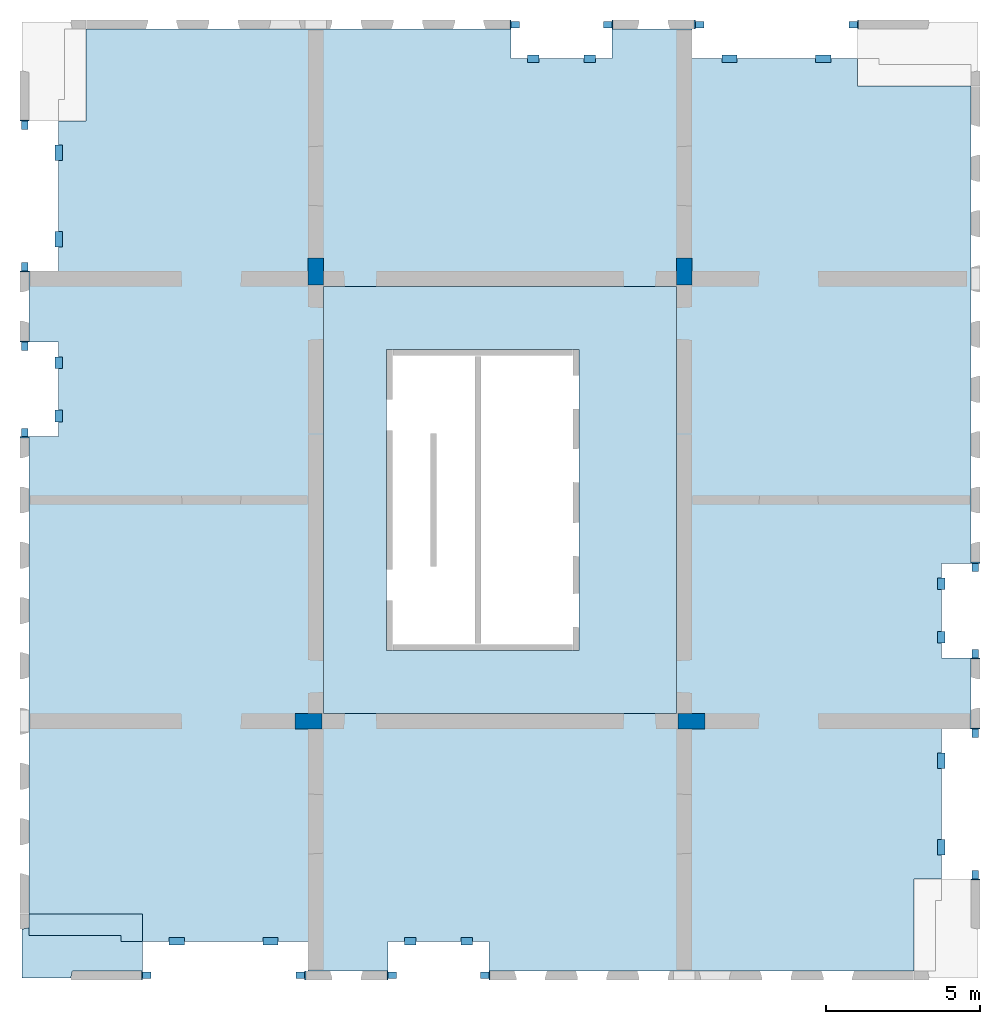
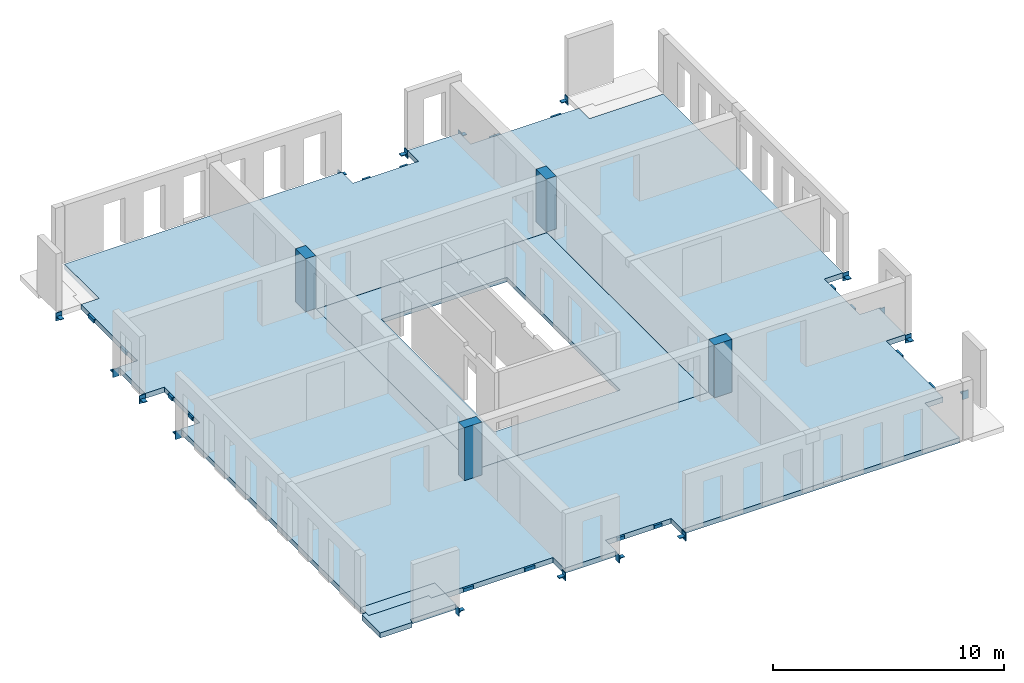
# One storey, part 1 of 4: 32 beams, 4 columns, 4 slabs, 2 openings.
"""IFC2X3 building model written with IfcOpenShell, lengths in millimetres."""

from ifc_helpers import new_model, entity, si_unit, converted_unit, derived_unit, direction, frame, frame_2d, origin, origin_2d_with_axis, place, context, subcontext, project, spatial, polyline, rectangle, outline, extrude, source, transform, mapped, material, layer, layer_set, layer_usage, type_object, type_shapes, element, save


model = new_model("IFC2X3")

# Units and contexts
model_context = context("Model", 3, precision=0.01, world=origin(), true_north=direction((6.12303176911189e-17, 1.0)))
body_context = subcontext(model_context, "Body", "Model", "MODEL_VIEW")
ifc_project = project(units=[si_unit("LENGTHUNIT", "METRE", prefix="MILLI"), si_unit("AREAUNIT", "SQUARE_METRE"), si_unit("VOLUMEUNIT", "CUBIC_METRE"), converted_unit("PLANEANGLEUNIT", "DEGREE", entity("IfcRatioMeasure", 0.0174532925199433), si_unit("PLANEANGLEUNIT", "RADIAN"), dimensions=[0, 0, 0, 0, 0, 0, 0]), si_unit("MASSUNIT", "GRAM", prefix="KILO"), derived_unit("MASSDENSITYUNIT", [(si_unit("MASSUNIT", "GRAM", prefix="KILO"), 1), (si_unit("LENGTHUNIT", "METRE"), -3)]), si_unit("TIMEUNIT", "SECOND"), si_unit("FREQUENCYUNIT", "HERTZ"), si_unit("THERMODYNAMICTEMPERATUREUNIT", "DEGREE_CELSIUS"), derived_unit("THERMALTRANSMITTANCEUNIT", [(si_unit("MASSUNIT", "GRAM", prefix="KILO"), 1), (si_unit("THERMODYNAMICTEMPERATUREUNIT", "KELVIN"), -1), (si_unit("TIMEUNIT", "SECOND"), -3)]), derived_unit("VOLUMETRICFLOWRATEUNIT", [(si_unit("LENGTHUNIT", "METRE"), 3), (si_unit("TIMEUNIT", "SECOND"), -1)]), si_unit("ELECTRICCURRENTUNIT", "AMPERE"), si_unit("ELECTRICVOLTAGEUNIT", "VOLT"), si_unit("POWERUNIT", "WATT"), si_unit("FORCEUNIT", "NEWTON", prefix="KILO"), si_unit("ILLUMINANCEUNIT", "LUX"), si_unit("LUMINOUSFLUXUNIT", "LUMEN"), si_unit("LUMINOUSINTENSITYUNIT", "CANDELA"), derived_unit("USERDEFINED", [(si_unit("MASSUNIT", "GRAM", prefix="KILO"), -1), (si_unit("LENGTHUNIT", "METRE"), -2), (si_unit("TIMEUNIT", "SECOND"), 3), (si_unit("LUMINOUSFLUXUNIT", "LUMEN"), 1)]), derived_unit("LINEARVELOCITYUNIT", [(si_unit("LENGTHUNIT", "METRE"), 1), (si_unit("TIMEUNIT", "SECOND"), -1)]), si_unit("PRESSUREUNIT", "PASCAL"), derived_unit("USERDEFINED", [(si_unit("LENGTHUNIT", "METRE"), -2), (si_unit("MASSUNIT", "GRAM", prefix="KILO"), 1), (si_unit("TIMEUNIT", "SECOND"), -2)])], contexts=[model_context])

# Site, building, storey
site_placement = place(None, origin())
site = spatial("IfcSite", under=ifc_project, at=site_placement, Name="Default", CompositionType="ELEMENT")
building_placement = place(site_placement, origin())
building = spatial("IfcBuilding", under=site, at=building_placement, Name="niet gebruiken", CompositionType="ELEMENT")
storey_placement = place(building_placement, frame((0.0, 0.0, 63900.0)))
storey = spatial("IfcBuildingStorey", under=building, at=storey_placement, Name="20 twintigste verdieping", CompositionType="ELEMENT", Elevation=63900.0000000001)

# Columns
ifc_material_1 = material(Name="NLRS_f2_beton ihwg")
column_type_1 = type_object("IfcColumnType", Name="500x880", PredefinedType="COLUMN", material=ifc_material_1)
shared_shape_1 = source(origin(), body_context, "Body", "SweptSolid", [
    extrude(rectangle(XDim=879.999999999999, YDim=500.000000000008, at=origin_2d_with_axis()), frame((135750.003540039, 24940.0, 63810.0), z_axis=(0.0, 0.0, 1.0), x_axis=(0.0, -1.0, 0.0)), (0.0, 0.0, 1.0), 2790.00000000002),
])
type_shapes(column_type_1, [shared_shape_1])
column_1_placement = place(storey_placement, frame((0.0, 0.0, -63900.0)))
element("IfcColumn", 1, at=column_1_placement, inside=storey, type_object=column_type_1, material=ifc_material_1, Name="NLRS_28.11_SCO_TLB_beton kolom ihwg_gen:500x880", ObjectType="500x880", context=body_context, shape_type="MappedRepresentation", body=[
    mapped(shared_shape_1, transform((0.0, 0.0, 0.0), scale=1.0)),
])
column_type_2 = type_object("IfcColumnType", Name="500x880", PredefinedType="COLUMN", material=ifc_material_1)
shared_shape_2 = source(origin(), body_context, "Body", "SweptSolid", [
    extrude(rectangle(XDim=879.999999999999, YDim=500.000000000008, at=origin_2d_with_axis()), frame((147750.0, 24940.0, 63810.0), z_axis=(0.0, 0.0, 1.0), x_axis=(0.0, -1.0, 0.0)), (0.0, 0.0, 1.0), 2790.00000000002),
])
type_shapes(column_type_2, [shared_shape_2])
column_2_placement = place(storey_placement, frame((0.0, 0.0, -63900.0)))
element("IfcColumn", 2, at=column_2_placement, inside=storey, type_object=column_type_2, material=ifc_material_1, Name="NLRS_28.11_SCO_TLB_beton kolom ihwg_gen:500x880", ObjectType="500x880", context=body_context, shape_type="MappedRepresentation", body=[
    mapped(shared_shape_2, transform((0.0, 0.0, 0.0), scale=1.0)),
])
column_type_3 = type_object("IfcColumnType", Name="500x880", PredefinedType="COLUMN", material=ifc_material_1)
shared_shape_3 = source(origin(), body_context, "Body", "SweptSolid", [
    extrude(rectangle(XDim=500.000000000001, YDim=880.000000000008, at=origin_2d_with_axis()), frame((135510.003540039, 10300.0115507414, 63810.0), z_axis=(0.0, 0.0, 1.0), x_axis=(0.0, -1.0, 0.0)), (0.0, 0.0, 1.0), 2790.00000000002),
])
type_shapes(column_type_3, [shared_shape_3])
column_3_placement = place(storey_placement, frame((0.0, 0.0, -63900.0)))
element("IfcColumn", 3, at=column_3_placement, inside=storey, type_object=column_type_3, material=ifc_material_1, Name="NLRS_28.11_SCO_TLB_beton kolom ihwg_gen:500x880", ObjectType="500x880", context=body_context, shape_type="MappedRepresentation", body=[
    mapped(shared_shape_3, transform((0.0, 0.0, 0.0), scale=1.0)),
])
column_type_4 = type_object("IfcColumnType", Name="500x880", PredefinedType="COLUMN", material=ifc_material_1)
shared_shape_4 = source(origin(), body_context, "Body", "SweptSolid", [
    extrude(rectangle(XDim=500.000000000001, YDim=880.000000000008, at=origin_2d_with_axis()), frame((147990.0, 10300.0, 63810.0), z_axis=(0.0, 0.0, 1.0), x_axis=(0.0, -1.0, 0.0)), (0.0, 0.0, 1.0), 2790.00000000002),
])
type_shapes(column_type_4, [shared_shape_4])
column_4_placement = place(storey_placement, frame((0.0, 0.0, -63900.0)))
element("IfcColumn", 4, at=column_4_placement, inside=storey, type_object=column_type_4, material=ifc_material_1, Name="NLRS_28.11_SCO_TLB_beton kolom ihwg_gen:500x880", ObjectType="500x880", context=body_context, shape_type="MappedRepresentation", body=[
    mapped(shared_shape_4, transform((0.0, 0.0, 0.0), scale=1.0)),
])

# Beams
ifc_material_2 = material(Name="NLRS_h2_staal")
beam_type_1 = type_object("IfcBeamType", Name="NLRS_28.11_SF_WPB_stalen schoen 4_gen", PredefinedType="BEAM", material=ifc_material_2)
shared_shape_5 = source(origin(), body_context, "Body", "SweptSolid", [
    extrude(outline(polyline([(-69.4999999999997, -23.0), (8.49999999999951, -23.0), (30.5, -1.0), (30.5000000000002, 47.0), (-69.4999999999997, -23.0)])), frame((-105.0, -109.499999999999, -58.0), z_axis=(1.0, 0.0, 0.0), x_axis=(0.0, -1.0, 0.0)), (0.0, 0.0, 1.0), 35.0),
    extrude(outline(polyline([(-69.4999999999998, -23.0), (8.49999999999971, -23.0), (30.5, -1.0), (30.5000000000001, 47.0), (-69.4999999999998, -23.0)])), frame((70.0, -109.499999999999, -58.0), z_axis=(1.0, 0.0, 0.0), x_axis=(0.0, -1.0, 0.0)), (0.0, 0.0, 1.0), 35.0),
    extrude(rectangle(XDim=300.0, YDim=34.9999999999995, at=origin_2d_with_axis()), frame((0.0, -157.5, -230.0), z_axis=(0.0, 0.0, 1.0), x_axis=(-1.0, 0.0, 0.0)), (0.0, 0.0, 1.0), 420.0),
    extrude(rectangle(XDim=210.000000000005, YDim=274.999999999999, at=origin_2d_with_axis()), frame((0.0, -2.4999999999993, -35.0), z_axis=(0.0, 0.0, 1.0), x_axis=(-1.0, 0.0, 0.0)), (0.0, 0.0, 1.0), 35.0),
])
type_shapes(beam_type_1, [shared_shape_5])
beam_1_placement = place(storey_placement, frame((157230.125015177, 12500.2361127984, -310.0)))
element("IfcBeam", 5, at=beam_1_placement, inside=storey, type_object=beam_type_1, material=ifc_material_2, Name="NLRS_28.11_SF_WPB_stalen schoen 4_gen:NLRS_28.11_SF_WPB_stalen schoen 4_gen", ObjectType="NLRS_28.11_SF_WPB_stalen schoen 4_gen", context=body_context, shape_type="MappedRepresentation", body=[
    mapped(shared_shape_5, transform((0.0, 0.0, 0.0), scale=1.0)),
])
for number, where, z_axis, x_axis, name in (
    (6, (126270.125015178, 22500.2361127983, -310.0), (0.0, 0.0, 1.0), (-1.0, 0.0, 0.0), "NLRS_28.11_SF_WPB_stalen schoen 4_gen:NLRS_28.11_SF_WPB_stalen schoen 4_gen"),
    (7, (157230.125015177, 15300.2361127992, -310.0), (0.0, 0.0, 1.0), (-1.0, 0.0, 0.0), "NLRS_28.11_SF_WPB_stalen schoen 4_gen:NLRS_28.11_SF_WPB_stalen schoen 4_gen"),
):
    element("IfcBeam", number, at=place(storey_placement, frame(where, z_axis=z_axis, x_axis=x_axis)), inside=storey, type_object=beam_type_1, material=ifc_material_2, Name=name, ObjectType="NLRS_28.11_SF_WPB_stalen schoen 4_gen", context=body_context, shape_type="MappedRepresentation", body=[
        mapped(shared_shape_5, transform((0.0, 0.0, 0.0), scale=1.0)),
    ])
beam_2_placement = place(storey_placement, frame((126270.125015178, 19700.2361127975, -310.0)))
element("IfcBeam", 8, at=beam_2_placement, inside=storey, type_object=beam_type_1, material=ifc_material_2, Name="NLRS_28.11_SF_WPB_stalen schoen 4_gen:NLRS_28.11_SF_WPB_stalen schoen 4_gen", ObjectType="NLRS_28.11_SF_WPB_stalen schoen 4_gen", context=body_context, shape_type="MappedRepresentation", body=[
    mapped(shared_shape_5, transform((0.0, 0.0, 0.0), scale=1.0)),
])
for number, where, z_axis, x_axis, name in (
    (9, (138250.125015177, 2020.23611279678, -310.0), (0.0, 0.0, 1.0), (0.0, -1.0, 0.0), "NLRS_28.11_SF_WPB_stalen schoen 4_gen:NLRS_28.11_SF_WPB_stalen schoen 4_gen"),
    (10, (141250.125015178, 2020.23611279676, -310.0), (0.0, 0.0, 1.0), (0.0, 1.0, 0.0), "NLRS_28.11_SF_WPB_stalen schoen 4_gen:NLRS_28.11_SF_WPB_stalen schoen 4_gen"),
    (11, (145250.125015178, 32980.2361127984, -310.0), (0.0, 0.0, 1.0), (0.0, 1.0, 0.0), "NLRS_28.11_SF_WPB_stalen schoen 4_gen:NLRS_28.11_SF_WPB_stalen schoen 4_gen"),
    (12, (142250.125015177, 32980.2361127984, -310.0), (0.0, 0.0, 1.0), (0.0, -1.0, 0.0), "NLRS_28.11_SF_WPB_stalen schoen 4_gen:NLRS_28.11_SF_WPB_stalen schoen 4_gen"),
):
    element("IfcBeam", number, at=place(storey_placement, frame(where, z_axis=z_axis, x_axis=x_axis)), inside=storey, type_object=beam_type_1, material=ifc_material_2, Name=name, ObjectType="NLRS_28.11_SF_WPB_stalen schoen 4_gen", context=body_context, shape_type="MappedRepresentation", body=[
        mapped(shared_shape_5, transform((0.0, 0.0, 0.0), scale=1.0)),
    ])
beam_type_2 = type_object("IfcBeamType", Name="NLRS_28.11_SF_WPB_stalen schoen 3_gen", PredefinedType="BEAM", material=ifc_material_2)
shared_shape_6 = source(origin(), body_context, "Body", "SweptSolid", [
    extrude(outline(polyline([(-69.4999999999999, -23.0), (8.49999999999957, -23.0), (30.5000000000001, -1.0), (30.5000000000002, 47.0), (-69.4999999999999, -23.0)])), frame((-105.0, -109.499999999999, -63.0), z_axis=(1.0, 0.0, 0.0), x_axis=(0.0, -1.0, 0.0)), (0.0, 0.0, 1.0), 40.0),
    extrude(outline(polyline([(-69.4999999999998, -23.0), (8.49999999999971, -23.0), (30.5, -1.0), (30.5000000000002, 47.0), (-69.4999999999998, -23.0)])), frame((65.0, -109.499999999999, -63.0), z_axis=(1.0, 0.0, 0.0), x_axis=(0.0, -1.0, 0.0)), (0.0, 0.0, 1.0), 40.0),
    extrude(rectangle(XDim=300.0, YDim=39.9999999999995, at=origin_2d_with_axis()), frame((0.0, -160.0, -230.0), z_axis=(0.0, 0.0, 1.0), x_axis=(-1.0, 0.0, 0.0)), (0.0, 0.0, 1.0), 420.0),
    extrude(rectangle(XDim=210.000000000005, YDim=274.999999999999, at=origin_2d_with_axis()), frame((0.0, -2.49999999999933, -40.0), z_axis=(0.0, 0.0, 1.0), x_axis=(-1.0, 0.0, 0.0)), (0.0, 0.0, 1.0), 39.9999999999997),
])
type_shapes(beam_type_2, [shared_shape_6])
beam_3_placement = place(storey_placement, frame((157230.125015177, 9900.23611279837, -310.0), z_axis=(0.0, 0.0, 1.0), x_axis=(-1.0, 0.0, 0.0)))
element("IfcBeam", 13, at=beam_3_placement, inside=storey, type_object=beam_type_2, material=ifc_material_2, Name="NLRS_28.11_SF_WPB_stalen schoen 3_gen:NLRS_28.11_SF_WPB_stalen schoen 3_gen", ObjectType="NLRS_28.11_SF_WPB_stalen schoen 3_gen", context=body_context, shape_type="MappedRepresentation", body=[
    mapped(shared_shape_6, transform((0.0, 0.0, 0.0), scale=1.0)),
])
for number, where, name in (
    (14, (157230.125015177, 5300.23611279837, -310.0), "NLRS_28.11_SF_WPB_stalen schoen 3_gen:NLRS_28.11_SF_WPB_stalen schoen 3_gen"),
    (15, (126270.125015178, 25100.2361127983, -310.0), "NLRS_28.11_SF_WPB_stalen schoen 3_gen:NLRS_28.11_SF_WPB_stalen schoen 3_gen"),
):
    element("IfcBeam", number, at=place(storey_placement, frame(where)), inside=storey, type_object=beam_type_2, material=ifc_material_2, Name=name, ObjectType="NLRS_28.11_SF_WPB_stalen schoen 3_gen", context=body_context, shape_type="MappedRepresentation", body=[
        mapped(shared_shape_6, transform((0.0, 0.0, 0.0), scale=1.0)),
    ])
for number, where, z_axis, x_axis, name in (
    (16, (126270.125015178, 29700.2361127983, -310.0), (0.0, 0.0, 1.0), (-1.0, 0.0, 0.0), "NLRS_28.11_SF_WPB_stalen schoen 3_gen:NLRS_28.11_SF_WPB_stalen schoen 3_gen"),
    (17, (135250.125015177, 2020.23611279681, -310.0), (0.0, 0.0, 1.0), (0.0, 1.0, 0.0), "NLRS_28.11_SF_WPB_stalen schoen 3_gen:NLRS_28.11_SF_WPB_stalen schoen 3_gen"),
    (18, (130250.125015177, 2020.23611279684, -310.0), (0.0, 0.0, 1.0), (0.0, -1.0, 0.0), "NLRS_28.11_SF_WPB_stalen schoen 3_gen:NLRS_28.11_SF_WPB_stalen schoen 3_gen"),
    (19, (148250.125015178, 32980.2361127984, -310.0), (0.0, 0.0, 1.0), (0.0, -1.0, 0.0), "NLRS_28.11_SF_WPB_stalen schoen 3_gen:NLRS_28.11_SF_WPB_stalen schoen 3_gen"),
    (20, (153250.125015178, 32980.2361127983, -310.0), (0.0, 0.0, 1.0), (0.0, 1.0, 0.0), "NLRS_28.11_SF_WPB_stalen schoen 3_gen:NLRS_28.11_SF_WPB_stalen schoen 3_gen"),
):
    element("IfcBeam", number, at=place(storey_placement, frame(where, z_axis=z_axis, x_axis=x_axis)), inside=storey, type_object=beam_type_2, material=ifc_material_2, Name=name, ObjectType="NLRS_28.11_SF_WPB_stalen schoen 3_gen", context=body_context, shape_type="MappedRepresentation", body=[
        mapped(shared_shape_6, transform((0.0, 0.0, 0.0), scale=1.0)),
    ])
beam_type_3 = type_object("IfcBeamType", Name="NLRS_28.11_SF_WPB_stalen handje 7 lang 375_gen:NLRS_28.11_SF_WPB_stalen handje 7_gen", PredefinedType="BEAM")
beam_4_placement = place(storey_placement, frame((127265.0, 25744.9872481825, -93.0), z_axis=(0.0, 0.0, 1.0), x_axis=(0.0, 1.0, 0.0)))
element("IfcBeam", 21, at=beam_4_placement, inside=storey, type_object=beam_type_3, material=ifc_material_2, Name="NLRS_28.11_SF_WPB_stalen handje 7 lang 375_gen:NLRS_28.11_SF_WPB_stalen handje 7_gen", ObjectType="NLRS_28.11_SF_WPB_stalen handje 7 lang 375_gen:NLRS_28.11_SF_WPB_stalen handje 7_gen", context=body_context, shape_type="SweptSolid", body=[
    extrude(outline(polyline([(-70.6666666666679, -153.333333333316), (-40.6666666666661, -153.333333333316), (-40.6666666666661, 61.66666666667), (111.333333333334, 61.66666666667), (111.333333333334, 91.6666666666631), (-70.6666666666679, 91.6666666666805), (-70.6666666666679, -153.333333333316)])), frame((0.0, -91.6666666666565, -70.6666666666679), z_axis=(1.0, 0.0, 0.0), x_axis=(0.0, 0.0, -1.0)), (0.0, 0.0, 1.0), 500.0),
])
beam_5_placement = place(storey_placement, frame((127265.0, 28554.9902884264, -93.0), z_axis=(0.0, 0.0, 1.0), x_axis=(0.0, 1.0, 0.0)))
element("IfcBeam", 22, at=beam_5_placement, inside=storey, type_object=beam_type_3, material=ifc_material_2, Name="NLRS_28.11_SF_WPB_stalen handje 7 lang 375_gen:NLRS_28.11_SF_WPB_stalen handje 7_gen", ObjectType="NLRS_28.11_SF_WPB_stalen handje 7 lang 375_gen:NLRS_28.11_SF_WPB_stalen handje 7_gen", context=body_context, shape_type="SweptSolid", body=[
    extrude(outline(polyline([(-70.6666666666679, -153.333333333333), (-40.6666666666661, -153.333333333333), (-40.6666666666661, 61.6666666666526), (111.333333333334, 61.6666666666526), (111.333333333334, 91.6666666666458), (-70.6666666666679, 91.6666666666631), (-70.6666666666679, -153.333333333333)])), frame((0.0, -91.6666666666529, -70.6666666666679), z_axis=(1.0, 0.0, 0.0), x_axis=(0.0, 0.0, -1.0)), (0.0, 0.0, 1.0), 500.0),
])
beam_6_placement = place(storey_placement, frame((142637.493417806, 31985.0, -93.0)))
element("IfcBeam", 23, at=beam_6_placement, inside=storey, type_object=beam_type_3, material=ifc_material_2, Name="NLRS_28.11_SF_WPB_stalen handje 7 lang 375_gen:NLRS_28.11_SF_WPB_stalen handje 7_gen", ObjectType="NLRS_28.11_SF_WPB_stalen handje 7 lang 375_gen:NLRS_28.11_SF_WPB_stalen handje 7_gen", context=body_context, shape_type="SweptSolid", body=[
    extrude(outline(polyline([(-70.6666666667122, -153.333333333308), (-40.6666666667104, -153.333333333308), (-40.6666666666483, 61.6666666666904), (111.333333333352, 61.6666666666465), (111.33333333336, 91.6666666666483), (-70.6666666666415, 91.6666666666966), (-70.6666666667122, -153.333333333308)])), frame((0.0, -91.6666666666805, -70.6666666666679), z_axis=(1.0, 0.0, 0.0), x_axis=(0.0, 0.0, -1.0)), (0.0, 0.0, 1.0), 375.000000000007),
])
beam_7_placement = place(storey_placement, frame((144487.49645996, 31985.0, -93.0)))
element("IfcBeam", 24, at=beam_7_placement, inside=storey, type_object=beam_type_3, material=ifc_material_2, Name="NLRS_28.11_SF_WPB_stalen handje 7 lang 375_gen:NLRS_28.11_SF_WPB_stalen handje 7_gen", ObjectType="NLRS_28.11_SF_WPB_stalen handje 7 lang 375_gen:NLRS_28.11_SF_WPB_stalen handje 7_gen", context=body_context, shape_type="SweptSolid", body=[
    extrude(outline(polyline([(-70.6666666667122, -153.333333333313), (-40.6666666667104, -153.333333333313), (-40.6666666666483, 61.666666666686), (111.333333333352, 61.6666666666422), (111.33333333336, 91.666666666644), (-70.6666666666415, 91.6666666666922), (-70.6666666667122, -153.333333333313)])), frame((0.0, -91.6666666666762, -70.6666666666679), z_axis=(1.0, 0.0, 0.0), x_axis=(0.0, 0.0, -1.0)), (0.0, 0.0, 1.0), 375.000000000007),
])
beam_8_placement = place(storey_placement, frame((148974.993417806, 31985.0, -93.0)))
element("IfcBeam", 25, at=beam_8_placement, inside=storey, type_object=beam_type_3, material=ifc_material_2, Name="NLRS_28.11_SF_WPB_stalen handje 7 lang 375_gen:NLRS_28.11_SF_WPB_stalen handje 7_gen", ObjectType="NLRS_28.11_SF_WPB_stalen handje 7 lang 375_gen:NLRS_28.11_SF_WPB_stalen handje 7_gen", context=body_context, shape_type="SweptSolid", body=[
    extrude(outline(polyline([(-70.6666666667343, -153.333333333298), (-40.6666666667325, -153.333333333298), (-40.6666666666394, 61.6666666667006), (111.333333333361, 61.6666666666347), (111.333333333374, 91.6666666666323), (-70.6666666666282, 91.6666666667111), (-70.6666666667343, -153.333333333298)])), frame((0.0, -91.6666666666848, -70.6666666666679), z_axis=(1.0, 0.0, 0.0), x_axis=(0.0, 0.0, -1.0)), (0.0, 0.0, 1.0), 500.000000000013),
])
beam_9_placement = place(storey_placement, frame((152024.99645996, 31985.0, -93.0)))
element("IfcBeam", 26, at=beam_9_placement, inside=storey, type_object=beam_type_3, material=ifc_material_2, Name="NLRS_28.11_SF_WPB_stalen handje 7 lang 375_gen:NLRS_28.11_SF_WPB_stalen handje 7_gen", ObjectType="NLRS_28.11_SF_WPB_stalen handje 7 lang 375_gen:NLRS_28.11_SF_WPB_stalen handje 7_gen", context=body_context, shape_type="SweptSolid", body=[
    extrude(outline(polyline([(-70.6666666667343, -153.333333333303), (-40.6666666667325, -153.333333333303), (-40.6666666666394, 61.6666666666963), (111.333333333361, 61.6666666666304), (111.333333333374, 91.6666666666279), (-70.6666666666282, 91.6666666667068), (-70.6666666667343, -153.333333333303)])), frame((0.0, -91.6666666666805, -70.6666666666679), z_axis=(1.0, 0.0, 0.0), x_axis=(0.0, 0.0, -1.0)), (0.0, 0.0, 1.0), 500.000000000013),
])
beam_10_placement = place(storey_placement, frame((156235.250030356, 9255.48497741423, -93.0), z_axis=(0.0, 0.0, 1.0), x_axis=(0.0, -1.0, 0.0)))
element("IfcBeam", 27, at=beam_10_placement, inside=storey, type_object=beam_type_3, material=ifc_material_2, Name="NLRS_28.11_SF_WPB_stalen handje 7 lang 375_gen:NLRS_28.11_SF_WPB_stalen handje 7_gen", ObjectType="NLRS_28.11_SF_WPB_stalen handje 7 lang 375_gen:NLRS_28.11_SF_WPB_stalen handje 7_gen", context=body_context, shape_type="SweptSolid", body=[
    extrude(outline(polyline([(-70.6666666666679, -153.333333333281), (-40.6666666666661, -153.333333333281), (-40.6666666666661, 61.6666666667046), (111.333333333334, 61.6666666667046), (111.333333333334, 91.6666666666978), (-70.6666666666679, 91.6666666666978), (-70.6666666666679, -153.333333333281)])), frame((0.0, -91.6666666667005, -70.6666666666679), z_axis=(1.0, 0.0, 0.0), x_axis=(0.0, 0.0, -1.0)), (0.0, 0.0, 1.0), 500.000000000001),
])
beam_11_placement = place(storey_placement, frame((156235.250030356, 6445.48193717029, -93.0), z_axis=(0.0, 0.0, 1.0), x_axis=(0.0, -1.0, 0.0)))
element("IfcBeam", 28, at=beam_11_placement, inside=storey, type_object=beam_type_3, material=ifc_material_2, Name="NLRS_28.11_SF_WPB_stalen handje 7 lang 375_gen:NLRS_28.11_SF_WPB_stalen handje 7_gen", ObjectType="NLRS_28.11_SF_WPB_stalen handje 7 lang 375_gen:NLRS_28.11_SF_WPB_stalen handje 7_gen", context=body_context, shape_type="SweptSolid", body=[
    extrude(outline(polyline([(-70.6666666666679, -153.333333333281), (-40.6666666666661, -153.333333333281), (-40.6666666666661, 61.6666666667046), (111.333333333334, 61.6666666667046), (111.333333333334, 91.6666666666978), (-70.6666666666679, 91.6666666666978), (-70.6666666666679, -153.333333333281)])), frame((0.0, -91.6666666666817, -70.6666666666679), z_axis=(1.0, 0.0, 0.0), x_axis=(0.0, 0.0, -1.0)), (0.0, 0.0, 1.0), 500.000000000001),
])
for number, where, z_axis, x_axis, name in (
    (29, (140862.756612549, 3015.47222559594, -93.0), (0.0, 0.0, 1.0), (-1.0, 0.0, 0.0), "NLRS_28.11_SF_WPB_stalen handje 7 lang 375_gen:NLRS_28.11_SF_WPB_stalen handje 7_gen"),
    (30, (139012.753570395, 3015.47222559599, -93.0), (0.0, 0.0, 1.0), (-1.0, 0.0, 0.0), "NLRS_28.11_SF_WPB_stalen handje 7 lang 375_gen:NLRS_28.11_SF_WPB_stalen handje 7_gen"),
):
    element("IfcBeam", number, at=place(storey_placement, frame(where, z_axis=z_axis, x_axis=x_axis)), inside=storey, type_object=beam_type_3, material=ifc_material_2, Name=name, ObjectType="NLRS_28.11_SF_WPB_stalen handje 7 lang 375_gen:NLRS_28.11_SF_WPB_stalen handje 7_gen", context=body_context, shape_type="SweptSolid", body=[
        extrude(outline(polyline([(-70.6666666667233, -153.333333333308), (-40.6666666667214, -153.333333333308), (-40.6666666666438, 61.6666666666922), (111.333333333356, 61.6666666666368), (111.333333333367, 91.6666666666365), (-70.6666666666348, 91.6666666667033), (-70.6666666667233, -153.333333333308)])), frame((0.0, -91.6666666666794, -70.6666666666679), z_axis=(1.0, 0.0, 0.0), x_axis=(0.0, 0.0, -1.0)), (0.0, 0.0, 1.0), 375.000000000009),
    ])
for number, where, z_axis, x_axis, name in (
    (31, (134525.256612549, 3015.47222559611, -93.0), (0.0, 0.0, 1.0), (-1.0, 0.0, 0.0), "NLRS_28.11_SF_WPB_stalen handje 7 lang 375_gen:NLRS_28.11_SF_WPB_stalen handje 7_gen"),
    (32, (131475.253570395, 3015.47222559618, -93.0), (0.0, 0.0, 1.0), (-1.0, 0.0, 0.0), "NLRS_28.11_SF_WPB_stalen handje 7 lang 375_gen:NLRS_28.11_SF_WPB_stalen handje 7_gen"),
):
    element("IfcBeam", number, at=place(storey_placement, frame(where, z_axis=z_axis, x_axis=x_axis)), inside=storey, type_object=beam_type_3, material=ifc_material_2, Name=name, ObjectType="NLRS_28.11_SF_WPB_stalen handje 7 lang 375_gen:NLRS_28.11_SF_WPB_stalen handje 7_gen", context=body_context, shape_type="SweptSolid", body=[
        extrude(outline(polyline([(-70.6666666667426, -153.333333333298), (-40.6666666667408, -153.333333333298), (-40.666666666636, 61.6666666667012), (111.333333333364, 61.6666666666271), (111.333333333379, 91.6666666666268), (-70.6666666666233, 91.666666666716), (-70.6666666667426, -153.333333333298)])), frame((0.0, -91.6666666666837, -70.6666666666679), z_axis=(1.0, 0.0, 0.0), x_axis=(0.0, 0.0, -1.0)), (0.0, 0.0, 1.0), 500.000000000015),
    ])
beam_12_placement = place(storey_placement, frame((156235.125015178, 14952.7458243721, -93.0), z_axis=(0.0, 0.0, 1.0), x_axis=(0.0, -1.0, 0.0)))
element("IfcBeam", 33, at=beam_12_placement, inside=storey, type_object=beam_type_3, material=ifc_material_2, Name="NLRS_28.11_SF_WPB_stalen handje 7 lang 375_gen:NLRS_28.11_SF_WPB_stalen handje 7_gen", ObjectType="NLRS_28.11_SF_WPB_stalen handje 7 lang 375_gen:NLRS_28.11_SF_WPB_stalen handje 7_gen", context=body_context, shape_type="SweptSolid", body=[
    extrude(outline(polyline([(-70.6666666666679, -153.333333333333), (-40.6666666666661, -153.333333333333), (-40.6666666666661, 61.66666666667), (111.333333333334, 61.66666666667), (111.333333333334, 91.6666666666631), (-70.6666666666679, 91.6666666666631), (-70.6666666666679, -153.333333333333)])), frame((0.0, -91.6666666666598, -70.6666666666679), z_axis=(1.0, 0.0, 0.0), x_axis=(0.0, 0.0, -1.0)), (0.0, 0.0, 1.0), 375.000000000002),
])
beam_13_placement = place(storey_placement, frame((156235.125015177, 13222.7458243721, -93.0), z_axis=(0.0, 0.0, 1.0), x_axis=(0.0, -1.0, 0.0)))
element("IfcBeam", 34, at=beam_13_placement, inside=storey, type_object=beam_type_3, material=ifc_material_2, Name="NLRS_28.11_SF_WPB_stalen handje 7 lang 375_gen:NLRS_28.11_SF_WPB_stalen handje 7_gen", ObjectType="NLRS_28.11_SF_WPB_stalen handje 7 lang 375_gen:NLRS_28.11_SF_WPB_stalen handje 7_gen", context=body_context, shape_type="SweptSolid", body=[
    extrude(outline(polyline([(-70.6666666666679, -153.333333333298), (-40.6666666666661, -153.333333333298), (-40.6666666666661, 61.6666666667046), (111.333333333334, 61.6666666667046), (111.333333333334, 91.6666666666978), (-70.6666666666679, 91.6666666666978), (-70.6666666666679, -153.333333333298)])), frame((0.0, -91.6666666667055, -70.6666666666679), z_axis=(1.0, 0.0, 0.0), x_axis=(0.0, 0.0, -1.0)), (0.0, 0.0, 1.0), 375.000000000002),
])
beam_14_placement = place(storey_placement, frame((127265.125015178, 20047.7264012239, -93.0), z_axis=(0.0, 0.0, 1.0), x_axis=(0.0, 1.0, 0.0)))
element("IfcBeam", 35, at=beam_14_placement, inside=storey, type_object=beam_type_3, material=ifc_material_2, Name="NLRS_28.11_SF_WPB_stalen handje 7 lang 375_gen:NLRS_28.11_SF_WPB_stalen handje 7_gen", ObjectType="NLRS_28.11_SF_WPB_stalen handje 7 lang 375_gen:NLRS_28.11_SF_WPB_stalen handje 7_gen", context=body_context, shape_type="SweptSolid", body=[
    extrude(outline(polyline([(-70.6666666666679, -153.333333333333), (-40.6666666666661, -153.333333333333), (-40.6666666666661, 61.66666666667), (111.333333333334, 61.6666666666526), (111.333333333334, 91.6666666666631), (-70.6666666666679, 91.6666666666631), (-70.6666666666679, -153.333333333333)])), frame((0.0, -91.6666666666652, -70.6666666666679), z_axis=(1.0, 0.0, 0.0), x_axis=(0.0, 0.0, -1.0)), (0.0, 0.0, 1.0), 375.000000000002),
])
beam_15_placement = place(storey_placement, frame((127265.125015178, 21777.7264012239, -93.0), z_axis=(0.0, 0.0, 1.0), x_axis=(0.0, 1.0, 0.0)))
element("IfcBeam", 36, at=beam_15_placement, inside=storey, type_object=beam_type_3, material=ifc_material_2, Name="NLRS_28.11_SF_WPB_stalen handje 7 lang 375_gen:NLRS_28.11_SF_WPB_stalen handje 7_gen", ObjectType="NLRS_28.11_SF_WPB_stalen handje 7 lang 375_gen:NLRS_28.11_SF_WPB_stalen handje 7_gen", context=body_context, shape_type="SweptSolid", body=[
    extrude(outline(polyline([(-70.6666666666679, -153.333333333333), (-40.6666666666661, -153.333333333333), (-40.6666666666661, 61.66666666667), (111.333333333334, 61.6666666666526), (111.333333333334, 91.6666666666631), (-70.6666666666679, 91.6666666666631), (-70.6666666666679, -153.333333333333)])), frame((0.0, -91.6666666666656, -70.6666666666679), z_axis=(1.0, 0.0, 0.0), x_axis=(0.0, 0.0, -1.0)), (0.0, 0.0, 1.0), 375.000000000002),
])

# Slabs
ifc_material_3 = material(Name="NLRS_f2_beton prefab")
ifc_layer_1 = layer(ifc_material_3, 270.0)
ifc_layer_set_1 = layer_set([ifc_layer_1], Name="Floor:NLRS_23.22_FL_beton prefab d=270 3D element_gen")
ifc_layer_usage_1 = layer_usage(ifc_layer_set_1, "AXIS3", "POSITIVE", 0.0)
slab_1_placement = place(storey_placement, origin())
element("IfcSlab", 37, at=slab_1_placement, inside=storey, material=ifc_layer_usage_1, Name="Floor:NLRS_23.22_FL_beton prefab d=270 3D element_gen", ObjectType="Floor:NLRS_23.22_FL_beton prefab d=270 3D element_gen", PredefinedType="LANDING", context=body_context, shape_type="SweptSolid", body=[
    extrude(outline(polyline([(-982.471394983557, -1442.47139498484), (607.67594043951, -1442.47139498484), (655.152429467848, -1209.47139498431), (1100.52860501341, -1209.47139498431), (1100.52860501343, 2480.5286050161), (-749.471394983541, 2480.5286050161), (-749.471394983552, 195.15242946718), (-982.47139498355, 147.675940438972), (-982.471394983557, -1442.47139498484)])), frame((127629.471394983, 2919.47139499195, -90.0), z_axis=(0.0, 0.0, -1.0), x_axis=(0.0, 1.0, 0.0)), (0.0, 0.0, 1.0), 269.999999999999),
])
ifc_layer_2 = layer(ifc_material_1, 170.0)
ifc_layer_set_2 = layer_set([ifc_layer_2], Name="Floor:NLRS_23.21_FL_beton ihwg d=170_gen")
ifc_layer_usage_2 = layer_usage(ifc_layer_set_2, "AXIS3", "POSITIVE", 0.0)
slab_2_placement = place(storey_placement, origin())
element("IfcSlab", 38, at=slab_2_placement, inside=storey, material=ifc_layer_usage_2, Name="Floor:NLRS_23.21_FL_beton ihwg d=170_gen", ObjectType="Floor:NLRS_23.21_FL_beton ihwg d=170_gen", PredefinedType="FLOOR", context=body_context, shape_type="SweptSolid", body=[
    extrude(outline(polyline([(-166.666666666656, -2226.66666666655), (533.333333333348, -2226.66666666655), (533.333333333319, 1463.33333333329), (-366.666666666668, 1463.33333333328), (-366.666666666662, 763.333333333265), (-166.666666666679, 763.333333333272), (-166.666666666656, -2226.66666666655)])), frame((128646.666666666, 3486.66666667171, -90.0), z_axis=(0.0, 0.0, -1.0), x_axis=(0.0, 1.0, 0.0)), (0.0, 0.0, 1.0), 169.999999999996),
])

# Slab, opening
ifc_layer_3 = layer(ifc_material_1, 230.0)
ifc_layer_set_3 = layer_set([ifc_layer_3], Name="Floor:NLRS_23.21_FL_vloer=230_gen")
ifc_layer_usage_3 = layer_usage(ifc_layer_set_3, "AXIS3", "POSITIVE", 0.0)
slab_3_placement = place(storey_placement, frame((136000.0, 10549.7638872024, -320.0)))
slab_3 = element("IfcSlab", 39, at=slab_3_placement, inside=storey, material=ifc_layer_usage_3, Name="Floor:NLRS_23.21_FL_vloer=230_gen", ObjectType="Floor:NLRS_23.21_FL_vloer=230_gen", PredefinedType="FLOOR", context=body_context, shape_type="SweptSolid", body=[
    extrude(rectangle(XDim=13900.2361127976, YDim=11500.0, at=frame_2d((0.0, 0.0), x_axis=(0.0, -1.0))), frame((5750.0, 6950.11805639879, 230.0), z_axis=(0.0, 0.0, -1.0), x_axis=(-1.0, 0.0, 0.0)), (0.0, 0.0, 1.0), 230.0),
])
opening_1_placement = place(slab_3_placement, frame((5190.0, 6950.23611279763, 230.0)))
element("IfcOpeningElement", 40, at=opening_1_placement, cuts=slab_3, Name="Floor:NLRS_23.21_FL_vloer=230_gen:2", ObjectType="Opening", context=body_context, shape_type="SweptSolid", body=[
    extrude(rectangle(XDim=9800.0, YDim=6279.99999999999, at=origin_2d_with_axis()), frame((0.0, 0.0, 0.0), z_axis=(0.0, 0.0, -1.0), x_axis=(0.0, -1.0, 0.0)), (0.0, 0.0, 1.0), 230.0),
])

ifc_layer_4 = layer(ifc_material_1, 170.0)
ifc_layer_5 = layer(ifc_material_3, 100.0)
ifc_layer_set_4 = layer_set([ifc_layer_4, ifc_layer_5], Name="Floor:NLRS_23.21_FL_breedplaat d=100/270_gen")
ifc_layer_usage_4 = layer_usage(ifc_layer_set_4, "AXIS3", "POSITIVE", 0.0)
slab_4_placement = place(storey_placement, frame((126420.0, 2170.0, -360.0)))
slab_4 = element("IfcSlab", 41, at=slab_4_placement, inside=storey, material=ifc_layer_usage_4, Name="Floor:NLRS_23.21_FL_breedplaat d=100/270_gen", ObjectType="Floor:NLRS_23.21_FL_breedplaat d=100/270_gen", PredefinedType="FLOOR", context=body_context, shape_type="SweptSolid", body=[
    extrude(outline(polyline([(-360.0, 15330.0), (-360.0, 14380.0), (-3640.0, 14380.0), (-3640.0, 15330.0), (-6250.0, 15330.0), (-6250.0, 14380.0), (-11640.0, 14380.0), (-11640.0, 13480.0), (-15330.0, 13480.0), (-15330.0, -2060.0), (-14380.0, -2060.0), (-14380.0, -5140.0), (-15330.0, -5140.0), (-15330.0, -7450.0), (-14380.0, -7450.0), (-14380.0, -12340.0), (-13480.0, -12340.0), (-13480.0, -15330.0), (360.0, -15330.0), (360.0, -14380.0), (3640.0, -14380.0), (3640.0, -15330.0), (6250.0, -15330.0), (6250.0, -14380.0), (11640.0, -14380.0), (11640.0, -13480.0), (15330.0, -13480.0), (15330.0, 2060.0), (14380.0, 2060.0), (14380.0, 5140.0), (15330.0, 5140.0), (15330.0, 7450.0), (14380.0, 7450.0), (14380.0, 12340.0), (13480.0, 12340.0), (13480.0, 15330.0), (-360.0, 15330.0)])), frame((15330.0, 15330.0, 270.0), z_axis=(0.0, 0.0, -1.0), x_axis=(-1.0, 0.0, 0.0)), (0.0, 0.0, 1.0), 269.999999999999),
])
opening_2_placement = place(slab_4_placement, frame((15330.0, 15330.0, 270.0)))
element("IfcOpeningElement", 42, at=opening_2_placement, cuts=slab_4, Name="Floor:NLRS_23.21_FL_breedplaat d=100/270_gen:2", ObjectType="Opening", context=body_context, shape_type="SweptSolid", body=[
    extrude(rectangle(XDim=13900.0, YDim=11500.0, at=origin_2d_with_axis()), frame((0.0, 0.0, 0.0), z_axis=(0.0, 0.0, -1.0), x_axis=(0.0, -1.0, 0.0)), (0.0, 0.0, 1.0), 269.999999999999),
])

save(model, "model.ifc")
